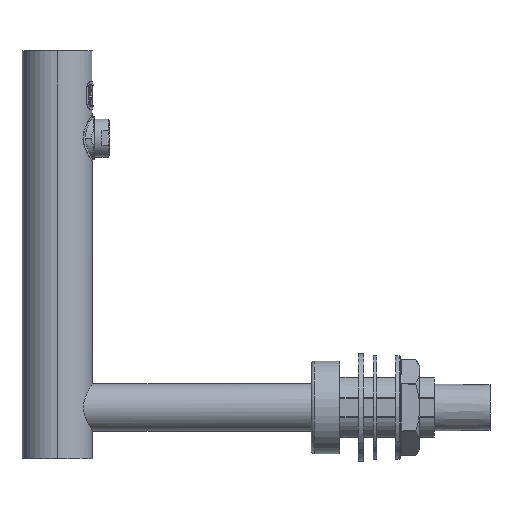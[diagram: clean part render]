
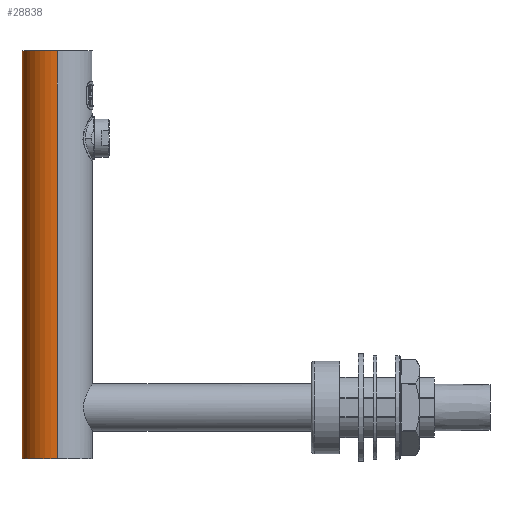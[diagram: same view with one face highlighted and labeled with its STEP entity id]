
A CAD part, left-side view. The second image highlights one B-rep face of the part: STEP entity #28838.
In plain terms, the highlighted cylindrical face has radius 19 mm (diameter 38 mm), a partial arc.
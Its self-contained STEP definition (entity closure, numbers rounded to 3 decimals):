
#9794 = EDGE_LOOP ( 'NONE', ( #23912, #23913, #23914, #23915 ) ) ;
#15427 = DIRECTION ( 'NONE',  ( 0., 0., 1. ) ) ;
#15429 = CYLINDRICAL_SURFACE ( 'NONE', #16297, 19. ) ;
#15431 = FACE_OUTER_BOUND ( 'NONE', #9794, .T. ) ;
#15432 = CARTESIAN_POINT ( 'NONE',  ( 0., 0., -220. ) ) ;
#15434 = DIRECTION ( 'NONE',  ( 1., 0., 0. ) ) ;
#15686 = CIRCLE ( 'NONE', #15706, 19. ) ;
#15706 = AXIS2_PLACEMENT_3D ( 'NONE', #31014, #31015, #31016 ) ;
#15709 = AXIS2_PLACEMENT_3D ( 'NONE', #31008, #31009, #31010 ) ;
#15712 = VECTOR ( 'NONE', #31011, 1000. ) ;
#15718 = VECTOR ( 'NONE', #31018, 1000. ) ;
#15724 = CIRCLE ( 'NONE', #15709, 19. ) ;
#16297 = AXIS2_PLACEMENT_3D ( 'NONE', #15432, #15427, #15434 ) ;
#20371 = EDGE_CURVE ( 'NONE', #25114, #25117, #15724, .T. ) ;
#20372 = EDGE_CURVE ( 'NONE', #25117, #25120, #31007, .T. ) ;
#20373 = EDGE_CURVE ( 'NONE', #25119, #25120, #15686, .T. ) ;
#20374 = EDGE_CURVE ( 'NONE', #25114, #25119, #31013, .T. ) ;
#23912 = ORIENTED_EDGE ( 'NONE', *, *, #20371, .T. ) ;
#23913 = ORIENTED_EDGE ( 'NONE', *, *, #20372, .T. ) ;
#23914 = ORIENTED_EDGE ( 'NONE', *, *, #20373, .F. ) ;
#23915 = ORIENTED_EDGE ( 'NONE', *, *, #20374, .F. ) ;
#25114 = VERTEX_POINT ( 'NONE', #44670 ) ;
#25117 = VERTEX_POINT ( 'NONE', #44673 ) ;
#25119 = VERTEX_POINT ( 'NONE', #44675 ) ;
#25120 = VERTEX_POINT ( 'NONE', #44676 ) ;
#28838 = ADVANCED_FACE ( 'NONE', ( #15431 ), #15429, .T. ) ;
#31004 = CARTESIAN_POINT ( 'NONE',  ( -19., 0., -220. ) ) ;
#31006 = CARTESIAN_POINT ( 'NONE',  ( 19., 0., -220. ) ) ;
#31007 = LINE ( 'NONE', #31004, #15712 ) ;
#31008 = CARTESIAN_POINT ( 'NONE',  ( 0., 0., -220. ) ) ;
#31009 = DIRECTION ( 'NONE',  ( 0., 0., 1. ) ) ;
#31010 = DIRECTION ( 'NONE',  ( 1., 0., 0. ) ) ;
#31011 = DIRECTION ( 'NONE',  ( 0., 0., 1. ) ) ;
#31013 = LINE ( 'NONE', #31006, #15718 ) ;
#31014 = CARTESIAN_POINT ( 'NONE',  ( 0., 0., 0. ) ) ;
#31015 = DIRECTION ( 'NONE',  ( 0., 0., 1. ) ) ;
#31016 = DIRECTION ( 'NONE',  ( 1., 0., 0. ) ) ;
#31018 = DIRECTION ( 'NONE',  ( 0., 0., 1. ) ) ;
#44670 = CARTESIAN_POINT ( 'NONE',  ( 19., 0., -220. ) ) ;
#44673 = CARTESIAN_POINT ( 'NONE',  ( -19., 0., -220. ) ) ;
#44675 = CARTESIAN_POINT ( 'NONE',  ( 19., 0., 0. ) ) ;
#44676 = CARTESIAN_POINT ( 'NONE',  ( -19., 0., 0. ) ) ;
